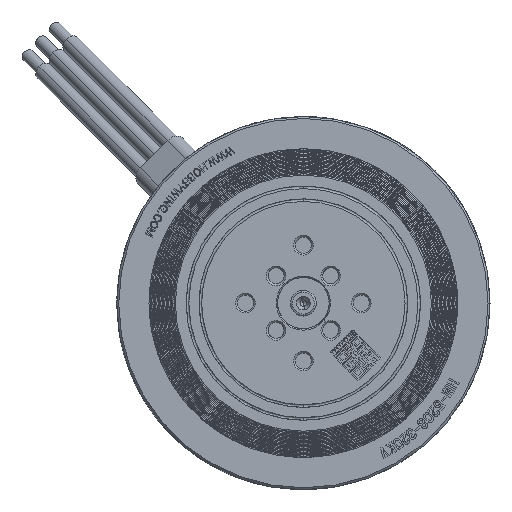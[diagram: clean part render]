
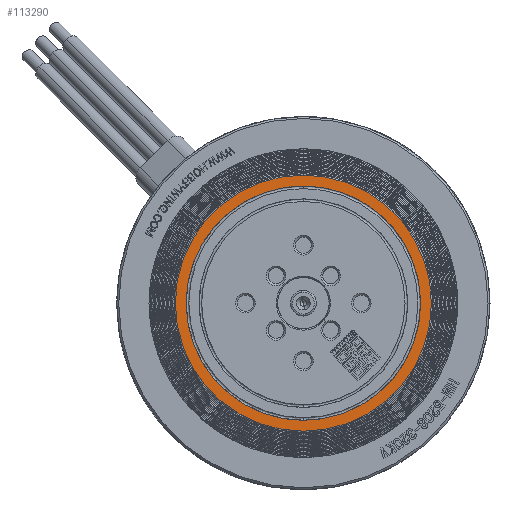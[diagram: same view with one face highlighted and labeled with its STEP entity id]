
A CAD part, front view. The second image highlights one B-rep face of the part: STEP entity #113290.
In plain terms, the highlighted planar face has unit normal (0, -1, 0).
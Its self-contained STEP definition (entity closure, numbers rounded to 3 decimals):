
#2674 = VERTEX_POINT ( 'NONE', #14152 ) ;
#8844 = DIRECTION ( 'NONE',  ( 0., 0., -1. ) ) ;
#9269 = AXIS2_PLACEMENT_3D ( 'NONE', #74148, #83143, #36885 ) ;
#14152 = CARTESIAN_POINT ( 'NONE',  ( 0., -6.6, -19.9 ) ) ;
#14710 = ORIENTED_EDGE ( 'NONE', *, *, #71153, .T. ) ;
#15693 = FACE_OUTER_BOUND ( 'NONE', #93608, .T. ) ;
#21229 = CIRCLE ( 'NONE', #30757, 19.9 ) ;
#25495 = EDGE_CURVE ( 'NONE', #43508, #25502, #100424, .T. ) ;
#25502 = VERTEX_POINT ( 'NONE', #32203 ) ;
#30757 = AXIS2_PLACEMENT_3D ( 'NONE', #41135, #95803, #86191 ) ;
#30985 = ORIENTED_EDGE ( 'NONE', *, *, #25495, .T. ) ;
#32203 = CARTESIAN_POINT ( 'NONE',  ( 0., -6.6, -18.2 ) ) ;
#32971 = ORIENTED_EDGE ( 'NONE', *, *, #39047, .F. ) ;
#34678 = VERTEX_POINT ( 'NONE', #79647 ) ;
#36885 = DIRECTION ( 'NONE',  ( 0., 0., -1. ) ) ;
#38517 = AXIS2_PLACEMENT_3D ( 'NONE', #68025, #60212, #79428 ) ;
#39047 = EDGE_CURVE ( 'NONE', #34678, #2674, #21229, .T. ) ;
#40391 = PLANE ( 'NONE',  #38517 ) ;
#41135 = CARTESIAN_POINT ( 'NONE',  ( 0., -6.6, 0. ) ) ;
#43508 = VERTEX_POINT ( 'NONE', #60638 ) ;
#43940 = DIRECTION ( 'NONE',  ( 0., 1., 0. ) ) ;
#50104 = ORIENTED_EDGE ( 'NONE', *, *, #81275, .F. ) ;
#54346 = AXIS2_PLACEMENT_3D ( 'NONE', #54549, #91201, #8844 ) ;
#54549 = CARTESIAN_POINT ( 'NONE',  ( 0., -6.6, 0. ) ) ;
#60212 = DIRECTION ( 'NONE',  ( 0., 1., 0. ) ) ;
#60638 = CARTESIAN_POINT ( 'NONE',  ( 0., -6.6, 18.2 ) ) ;
#63170 = DIRECTION ( 'NONE',  ( 0., 0., 1. ) ) ;
#68025 = CARTESIAN_POINT ( 'NONE',  ( -4., -6.6, 0. ) ) ;
#68618 = FACE_BOUND ( 'NONE', #103098, .T. ) ;
#71153 = EDGE_CURVE ( 'NONE', #25502, #43508, #105219, .T. ) ;
#74148 = CARTESIAN_POINT ( 'NONE',  ( 0., -6.6, 0. ) ) ;
#79428 = DIRECTION ( 'NONE',  ( 0., 0., -1. ) ) ;
#79647 = CARTESIAN_POINT ( 'NONE',  ( 0., -6.6, 19.9 ) ) ;
#81275 = EDGE_CURVE ( 'NONE', #2674, #34678, #108032, .T. ) ;
#83143 = DIRECTION ( 'NONE',  ( 0., 1., 0. ) ) ;
#86191 = DIRECTION ( 'NONE',  ( 0., 0., 1. ) ) ;
#91201 = DIRECTION ( 'NONE',  ( 0., 1., 0. ) ) ;
#91398 = CARTESIAN_POINT ( 'NONE',  ( 0., -6.6, 0. ) ) ;
#93608 = EDGE_LOOP ( 'NONE', ( #32971, #50104 ) ) ;
#95803 = DIRECTION ( 'NONE',  ( 0., 1., 0. ) ) ;
#98388 = AXIS2_PLACEMENT_3D ( 'NONE', #91398, #43940, #63170 ) ;
#100424 = CIRCLE ( 'NONE', #54346, 18.2 ) ;
#103098 = EDGE_LOOP ( 'NONE', ( #14710, #30985 ) ) ;
#105219 = CIRCLE ( 'NONE', #9269, 18.2 ) ;
#108032 = CIRCLE ( 'NONE', #98388, 19.9 ) ;
#113290 = ADVANCED_FACE ( 'NONE', ( #15693, #68618 ), #40391, .F. ) ;
